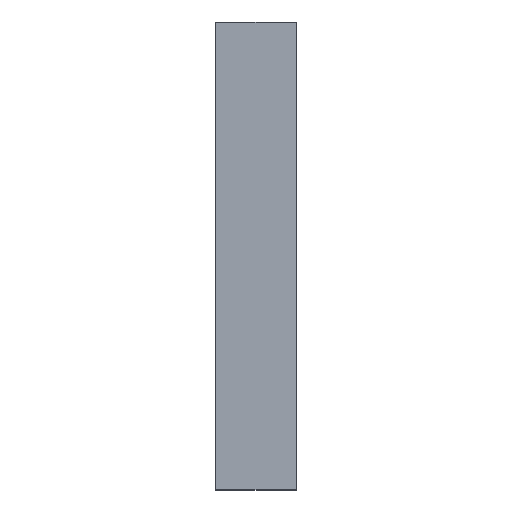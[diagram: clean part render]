
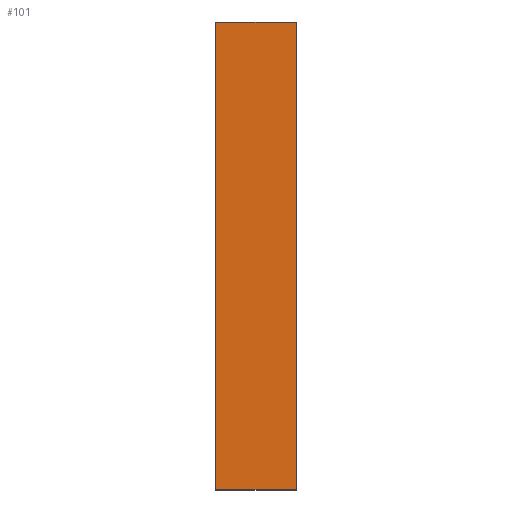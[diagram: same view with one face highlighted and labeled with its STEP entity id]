
A CAD part, top view. The second image highlights one B-rep face of the part: STEP entity #101.
In plain terms, the highlighted planar face has unit normal (0, 0, 1).
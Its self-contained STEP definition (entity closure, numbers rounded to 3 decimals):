
#74=AXIS2_PLACEMENT_3D('Plane Axis2P3D',#71,#72,#73) ;
#49=CARTESIAN_POINT('Vertex',(0.,0.,0.5)) ;
#52=CARTESIAN_POINT('Line Origine',(0.,25.4,0.5)) ;
#56=CARTESIAN_POINT('Vertex',(0.,50.8,0.5)) ;
#71=CARTESIAN_POINT('Axis2P3D Location',(8.7,25.4,0.5)) ;
#76=CARTESIAN_POINT('Line Origine',(4.35,0.,0.5)) ;
#80=CARTESIAN_POINT('Vertex',(8.7,0.,0.5)) ;
#83=CARTESIAN_POINT('Line Origine',(8.7,25.4,0.5)) ;
#87=CARTESIAN_POINT('Vertex',(8.7,50.8,0.5)) ;
#90=CARTESIAN_POINT('Line Origine',(4.35,50.8,0.5)) ;
#53=DIRECTION('Vector Direction',(0.,1.,0.)) ;
#72=DIRECTION('Axis2P3D Direction',(0.,0.,-1.)) ;
#73=DIRECTION('Axis2P3D XDirection',(-1.,0.,0.)) ;
#77=DIRECTION('Vector Direction',(-1.,0.,0.)) ;
#84=DIRECTION('Vector Direction',(0.,1.,0.)) ;
#91=DIRECTION('Vector Direction',(-1.,0.,0.)) ;
#54=VECTOR('Line Direction',#53,1.) ;
#78=VECTOR('Line Direction',#77,1.) ;
#85=VECTOR('Line Direction',#84,1.) ;
#92=VECTOR('Line Direction',#91,1.) ;
#96=ORIENTED_EDGE('',*,*,#58,.F.) ;
#97=ORIENTED_EDGE('',*,*,#82,.T.) ;
#98=ORIENTED_EDGE('',*,*,#89,.T.) ;
#99=ORIENTED_EDGE('',*,*,#94,.F.) ;
#101=ADVANCED_FACE('S3D - gedreht',(#100),#75,.F.) ;
#58=EDGE_CURVE('',#50,#57,#55,.T.) ;
#82=EDGE_CURVE('',#50,#81,#79,.F.) ;
#89=EDGE_CURVE('',#81,#88,#86,.T.) ;
#94=EDGE_CURVE('',#57,#88,#93,.F.) ;
#95=EDGE_LOOP('',(#96,#97,#98,#99)) ;
#100=FACE_OUTER_BOUND('',#95,.T.) ;
#55=LINE('Line',#52,#54) ;
#79=LINE('Line',#76,#78) ;
#86=LINE('Line',#83,#85) ;
#93=LINE('Line',#90,#92) ;
#75=PLANE('',#74) ;
#50=VERTEX_POINT('',#49) ;
#57=VERTEX_POINT('',#56) ;
#81=VERTEX_POINT('',#80) ;
#88=VERTEX_POINT('',#87) ;
